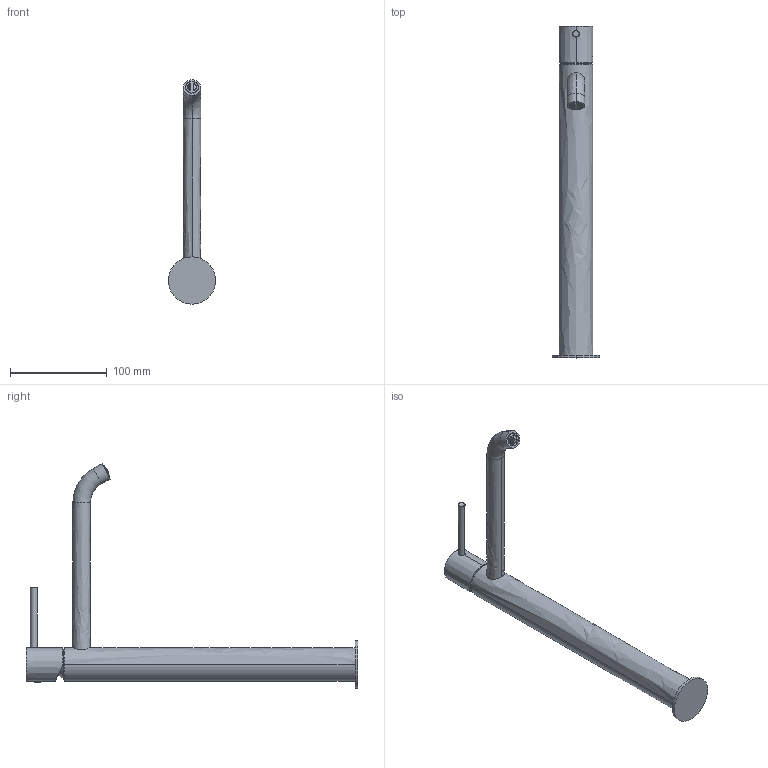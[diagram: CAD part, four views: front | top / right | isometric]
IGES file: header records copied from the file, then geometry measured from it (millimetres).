
Start section:  PTC IGES file: 6946521.igs
Global section: file name: 6946521.igs; native system: Creo Parametric by PTC Inc.; preprocessor: 2022014; author: carloff; organization: Unknown; date: 20251119.111118; units: millimetre
Bounding box: 48.8 x 342.3 x 231.35 mm (x, y, z)
Surface area: 59424.1 mm2 (no closed solid volume)
Topology: 0 solids, 0 shells, 379 faces, 2208 edges, 2202 vertices
Faces by surface type: revolution 222, bspline 157
